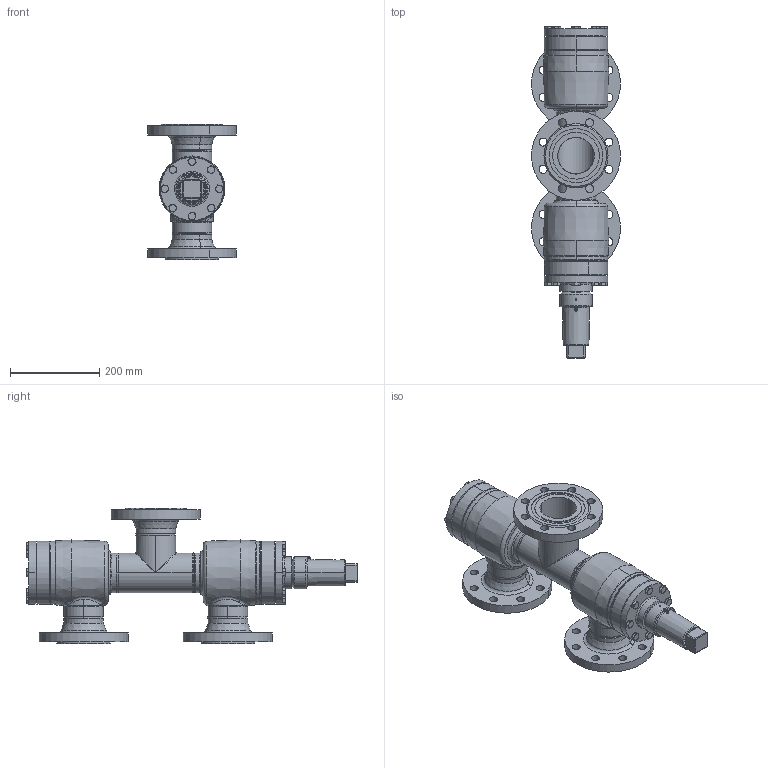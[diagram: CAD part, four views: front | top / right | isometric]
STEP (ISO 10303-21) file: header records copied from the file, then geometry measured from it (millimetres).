
FILE_DESCRIPTION (( 'STEP AP214' ), '1' );
FILE_NAME ('WVB23020D18-DN080_DIN-FL-N-F_PS40.STEP', '2010-09-08T08:44:30', ( 'Eckhard Grams' ), ( 'AWP Kälte Klima Armaturen GmbH' ), 'SwSTEP 2.0', 'SolidWorks 2002296', '' );
FILE_SCHEMA (( 'AUTOMOTIVE_DESIGN' ));
Length unit declared in the file: millimetre
Products named in the file (21): WVB23020D18-DN080_DIN-FL-N-F_PS40; Kappe 16402-19_DN80-100 (M60x3)_Standard; AVB16300E18_Deck+Schr-DN80_Standard; Deckel16300E18-DN80_Standard; Geh,kpl23020E18-DN080_DIN-FL-N-F_PS40_Standard; Flansch-DIN2635-Nut_PS40_DIN-Flansch-DN080_PS40-Nut; Geh,kpl23000E18-DN080_R1_PS40_Standard; Gehäuse23000E18-DN080_R1_PS40_Standard; T-Stück DIN2615_DN 80; Kopfstück16300-DN080_Standard; bead23000-18-2kopf_Standard; bead23000-18-1kopf_Standard; bead23000-18-2_Standard; bead23000-18-1_Standard; Flansch-DIN2635-Feder_PS40_DIN-Flansch-DN080_PS40-Feder; bead23020-18-3_Standard; bead23020-18-2_Standard; bead23020-18-1_Standard; WVB-R23000E18_Deck+Schr-DN80_Standard; Deckel23000E18-DN80_Standard; Sechskantschraube-DIN933_M10x 30
Assembly tree (38 placements, depth 4):
  WVB23020D18-DN080_DIN-FL-N-F_PS40
    Geh,kpl23020E18-DN080_DIN-FL-N-F_PS40_Standard
      Geh,kpl23000E18-DN080_R1_PS40_Standard
        Kopfstück16300-DN080_Standard  x2
        bead23000-18-2_Standard
        bead23000-18-1_Standard
        Gehäuse23000E18-DN080_R1_PS40_Standard  x2
        bead23000-18-1kopf_Standard
        T-Stück DIN2615_DN 80
        bead23000-18-2kopf_Standard
      Flansch-DIN2635-Feder_PS40_DIN-Flansch-DN080_PS40-Feder  x2
      Flansch-DIN2635-Nut_PS40_DIN-Flansch-DN080_PS40-Nut
      bead23020-18-2_Standard
      bead23020-18-1_Standard
      bead23020-18-3_Standard
    AVB16300E18_Deck+Schr-DN80_Standard
      Sechskantschraube-DIN933_M10x 30  x8
      Deckel16300E18-DN80_Standard
    WVB-R23000E18_Deck+Schr-DN80_Standard
      Sechskantschraube-DIN933_M10x 30  x8
      Deckel23000E18-DN80_Standard
    Kappe 16402-19_DN80-100 (M60x3)_Standard
Bounding box: 199.81 x 745.4 x 304 mm (x, y, z)
Volume: 5086483.8 mm3; surface area: 1014275.1 mm2
Topology: 34 solids, 34 shells, 873 faces, 1959 edges, 1178 vertices
Faces by surface type: cone 307, cylinder 262, plane 220, bspline 56, torus 28
Entity records: 39408 total; most frequent: CARTESIAN_POINT 28850, DIRECTION 2016, ORIENTED_EDGE 1906, EDGE_CURVE 953, AXIS2_PLACEMENT_3D 870, VERTEX_POINT 591, EDGE_LOOP 510, CIRCLE 469
